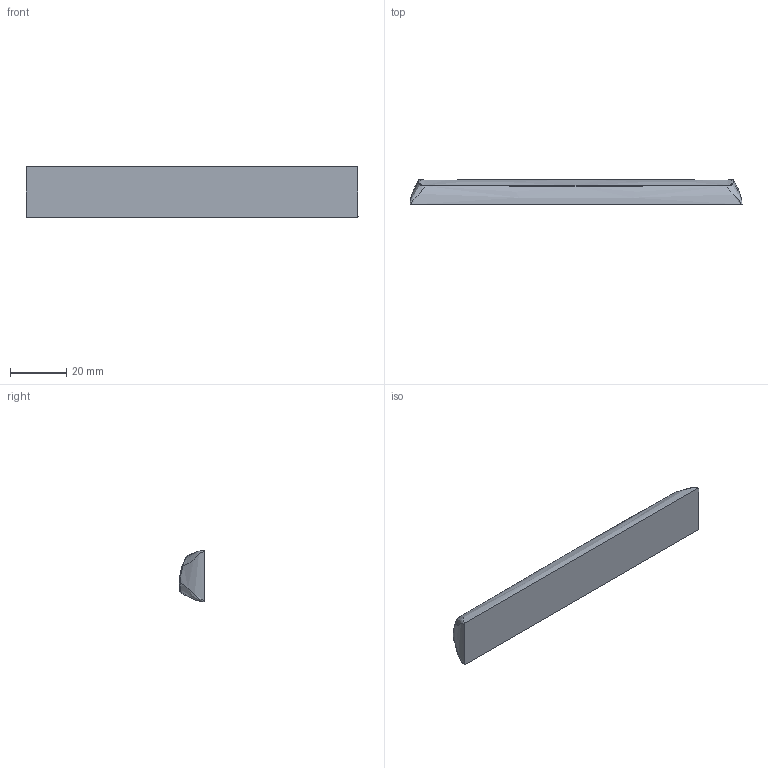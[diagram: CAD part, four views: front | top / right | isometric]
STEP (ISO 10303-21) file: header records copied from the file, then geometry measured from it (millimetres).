
FILE_DESCRIPTION (( 'STEP AP203' ), '1' );
FILE_NAME ('R4_Spacebar_6.25U_v3.2_GMK.STEP', '2023-03-07T11:10:58', ( '' ), ( '' ), 'SwSTEP 2.0', 'SolidWorks 2022', '' );
FILE_SCHEMA (( 'CONFIG_CONTROL_DESIGN' ));
Length unit declared in the file: millimetre
Products named in the file (1): R4_Spacebar_6.25U_v3.2_GMK
Bounding box: 118.21 x 8.92 x 18.2 mm (x, y, z)
Volume: 15395.7 mm3; surface area: 5765.4 mm2
Topology: 1 solids, 1 shells, 18 faces, 40 edges, 24 vertices
Faces by surface type: bspline 17, plane 1
Entity records: 3381 total; most frequent: CARTESIAN_POINT 3050, ORIENTED_EDGE 80, EDGE_CURVE 40, B_SPLINE_CURVE_WITH_KNOTS 28, VERTEX_POINT 24, FACE_OUTER_BOUND 18, EDGE_LOOP 18, ADVANCED_FACE 18
